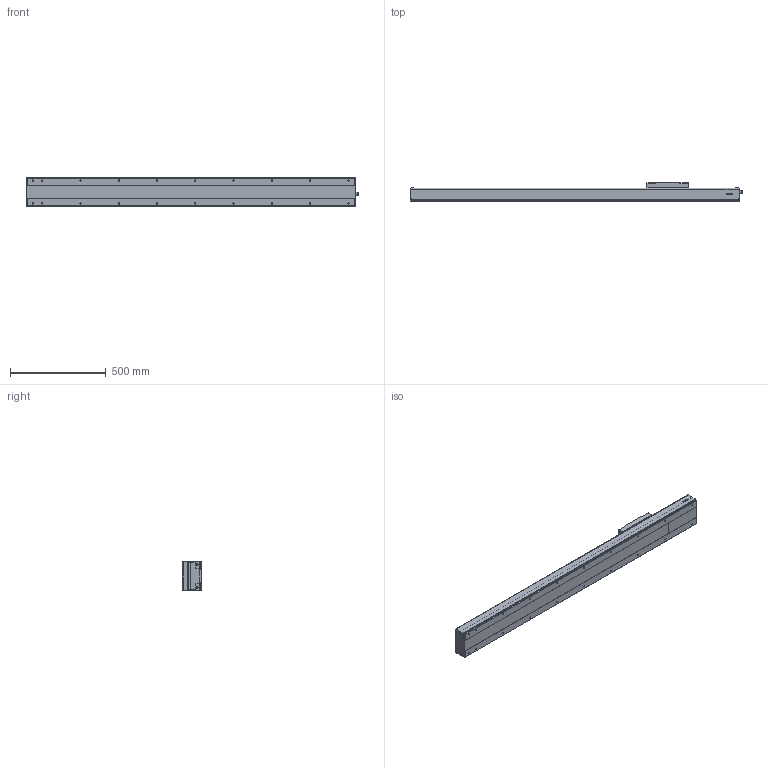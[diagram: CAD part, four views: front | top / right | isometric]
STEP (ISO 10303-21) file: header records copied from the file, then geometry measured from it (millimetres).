
FILE_DESCRIPTION(/* description */ (''),/* implementation_level */ '2;1');
FILE_NAME(/* name */ 'D:\混合母檔20191031\混和母檔\混和母檔\bin\Debug\Download\3D\KS150-10C-1200AFI\KS150-10C-1200AFI.stp',/* time_stamp */ '2019-11-04T15:53:57+08:00',/* author */ ('user'),/* organization */ (''),/* preprocessor_version */ 'ST-DEVELOPER v16.13',/* originating_system */ 'Autodesk Inventor 2018',/* authorisation */ '');
FILE_SCHEMA (('AUTOMOTIVE_DESIGN { 1 0 10303 214 3 1 1 }'));
Length unit declared in the file: millimetre
Products named in the file (3): KS150-10C-1200AFI; KS150-FI; KS150-SL
Assembly tree (2 placements, depth 2):
  KS150-10C-1200AFI
    KS150-FI
    KS150-SL
Bounding box: 1735.05 x 100 x 152.4 mm (x, y, z)
Volume: 6930820.5 mm3; surface area: 1676988.4 mm2
Topology: 4 solids, 8 shells, 1253 faces, 3305 edges, 2142 vertices
Faces by surface type: plane 615, cone 234, cylinder 196, bspline 136, torus 68, sphere 4
Full cylindrical faces by diameter (mm): 3.242 x12, 3.571 x8, 4.134 x4, 4.5 x8, 4.509 x6, 4.917 x4, 5 x18, 5.5 x12, 6 x2, 6.647 x24, 8 x4, 8.4 x8, 9.3 x12, 10.437 x1, 12 x1, 14 x1, 15 x1, 15.538 x1, 23 x1, 46 x1, 50 x1
Entity records: 41208 total; most frequent: CARTESIAN_POINT 12756, ORIENTED_EDGE 5864, DIRECTION 5473, EDGE_CURVE 2932, VERTEX_POINT 2028, AXIS2_PLACEMENT_3D 1904, LINE 1665, VECTOR 1665
